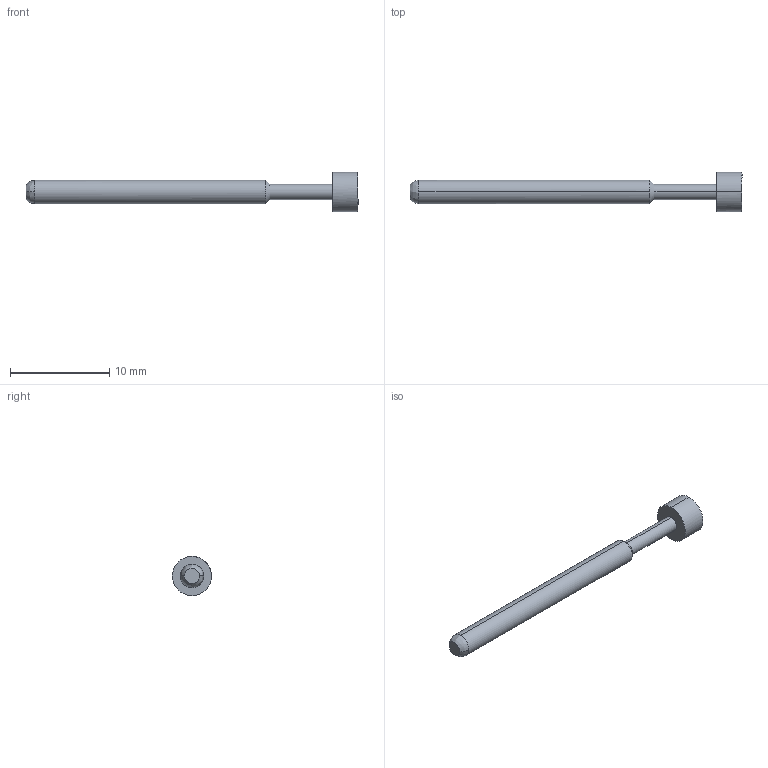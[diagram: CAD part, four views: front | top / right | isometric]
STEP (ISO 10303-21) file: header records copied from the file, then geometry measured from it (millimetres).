
FILE_DESCRIPTION (( 'STEP AP214' ), '1' );
FILE_NAME ('PA6F.STEP', '2025-03-26T12:12:52', ( '' ), ( '' ), 'SwSTEP 2.0', 'SolidWorks 2024', '' );
FILE_SCHEMA (( 'AUTOMOTIVE_DESIGN' ));
Length unit declared in the file: inch
Products named in the file (1): PA6F
Bounding box: 33.53 x 3.96 x 3.96 mm (x, y, z)
Volume: 149.5 mm3; surface area: 270 mm2
Topology: 1 solids, 1 shells, 13 faces, 26 edges, 16 vertices
Faces by surface type: bspline 13
Entity records: 655 total; most frequent: CARTESIAN_POINT 301, ORIENTED_EDGE 52, EDGE_CURVE 26, VERTEX_POINT 16, DIMENSIONAL_EXPONENTS 15, UNCERTAINTY_MEASURE_WITH_UNIT 15, LENGTH_MEASURE_WITH_UNIT 15, STYLED_ITEM 14
